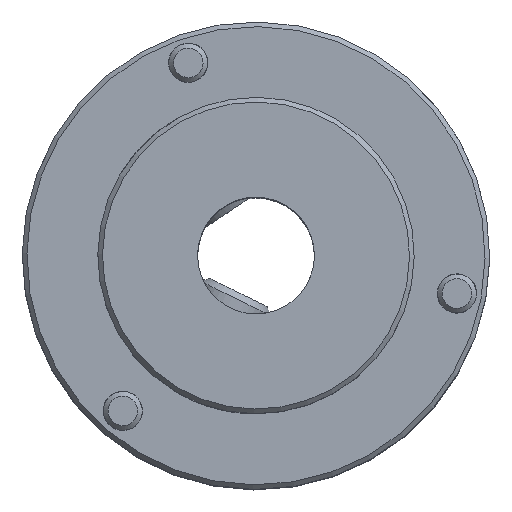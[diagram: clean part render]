
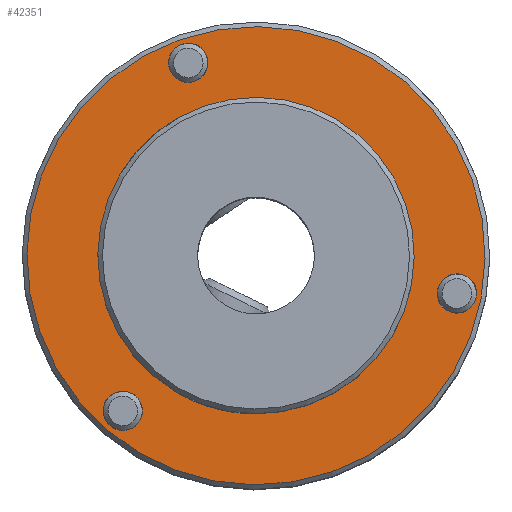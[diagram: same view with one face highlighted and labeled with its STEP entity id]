
A CAD part, top view. The second image highlights one B-rep face of the part: STEP entity #42351.
In plain terms, the highlighted planar face has unit normal (0, 0, 1) as drawn and (0, -1, 0) by its records, which use the part's own axes.
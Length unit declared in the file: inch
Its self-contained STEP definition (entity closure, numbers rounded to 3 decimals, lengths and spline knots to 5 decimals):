
#42287=CARTESIAN_POINT('',(0.735,0.,0.));
#42288=VERTEX_POINT('',#42287);
#42289=CARTESIAN_POINT('',(0.,0.,0.));
#42290=DIRECTION('',(0.0,1.0,0.0));
#42291=DIRECTION('',(-1.0,0.0,0.0));
#42292=AXIS2_PLACEMENT_3D('',#42289,#42290,#42291);
#42293=CIRCLE('',#42292,0.735);
#42294=EDGE_CURVE('',#42288,#42288,#42293,.T.);
#42299=CARTESIAN_POINT('',(0.62875,0.,0.));
#42300=DIRECTION('',(0.0,-1.0,0.0));
#42301=DIRECTION('',(0.0,0.0,-1.0));
#42302=AXIS2_PLACEMENT_3D('',#42299,#42300,#42301);
#42303=PLANE('',#42302);
#42304=ORIENTED_EDGE('',*,*,#42294,.F.);
#42305=EDGE_LOOP('',(#42304));
#42306=FACE_OUTER_BOUND('',#42305,.T.);
#42307=CARTESIAN_POINT('',(0.5075,0.,0.));
#42308=VERTEX_POINT('',#42307);
#42309=CARTESIAN_POINT('',(0.,0.,0.));
#42310=DIRECTION('',(0.0,-1.0,0.0));
#42311=DIRECTION('',(1.0,0.0,0.0));
#42312=AXIS2_PLACEMENT_3D('',#42309,#42310,#42311);
#42313=CIRCLE('',#42312,0.5075);
#42314=EDGE_CURVE('',#42308,#42308,#42313,.T.);
#42315=ORIENTED_EDGE('',*,*,#42314,.F.);
#42316=EDGE_LOOP('',(#42315));
#42317=FACE_BOUND('',#42316,.T.);
#42318=CARTESIAN_POINT('',(-0.50511,0.,0.328));
#42319=VERTEX_POINT('',#42318);
#42320=CARTESIAN_POINT('',(-0.56811,0.,0.328));
#42321=DIRECTION('',(0.0,1.0,0.0));
#42322=DIRECTION('',(-1.0,0.0,0.0));
#42323=AXIS2_PLACEMENT_3D('',#42320,#42321,#42322);
#42324=CIRCLE('',#42323,0.063);
#42325=EDGE_CURVE('',#42319,#42319,#42324,.T.);
#42326=ORIENTED_EDGE('',*,*,#42325,.T.);
#42327=EDGE_LOOP('',(#42326));
#42328=FACE_BOUND('',#42327,.T.);
#42329=CARTESIAN_POINT('',(0.063,0.,-0.656));
#42330=VERTEX_POINT('',#42329);
#42331=CARTESIAN_POINT('',(0.,0.,-0.656));
#42332=DIRECTION('',(0.0,1.0,0.0));
#42333=DIRECTION('',(-1.0,0.0,0.0));
#42334=AXIS2_PLACEMENT_3D('',#42331,#42332,#42333);
#42335=CIRCLE('',#42334,0.063);
#42336=EDGE_CURVE('',#42330,#42330,#42335,.T.);
#42337=ORIENTED_EDGE('',*,*,#42336,.T.);
#42338=EDGE_LOOP('',(#42337));
#42339=FACE_BOUND('',#42338,.T.);
#42340=CARTESIAN_POINT('',(0.63111,0.0,0.328));
#42341=VERTEX_POINT('',#42340);
#42342=CARTESIAN_POINT('',(0.56811,0.0,0.328));
#42343=DIRECTION('',(0.0,1.0,0.0));
#42344=DIRECTION('',(-1.0,0.0,0.0));
#42345=AXIS2_PLACEMENT_3D('',#42342,#42343,#42344);
#42346=CIRCLE('',#42345,0.063);
#42347=EDGE_CURVE('',#42341,#42341,#42346,.T.);
#42348=ORIENTED_EDGE('',*,*,#42347,.T.);
#42349=EDGE_LOOP('',(#42348));
#42350=FACE_BOUND('',#42349,.T.);
#42351=ADVANCED_FACE('',(#42306,#42317,#42328,#42339,#42350),#42303,.T.);
